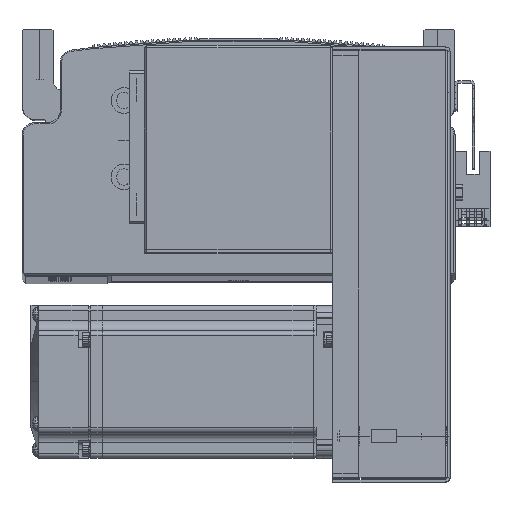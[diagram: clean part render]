
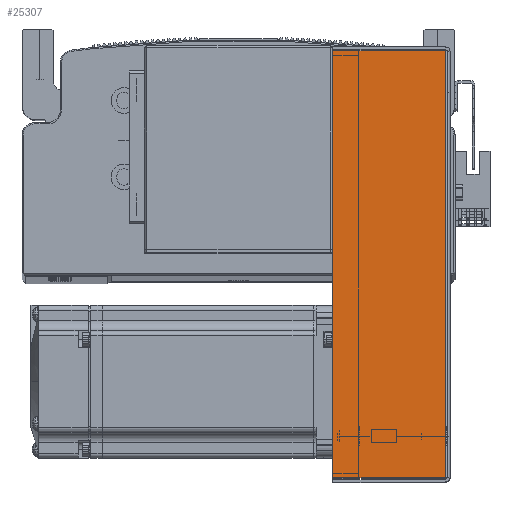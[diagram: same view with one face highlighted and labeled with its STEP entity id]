
A CAD part, top view. The second image highlights one B-rep face of the part: STEP entity #25307.
In plain terms, the highlighted planar face has unit normal (0, 0, 1) as drawn and (0, 0, -1) by its records, which use the part's own axes.
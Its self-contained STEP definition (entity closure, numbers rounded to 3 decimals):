
#15941 = VERTEX_POINT ( 'NONE', #77706 ) ;
#15970 = VERTEX_POINT ( 'NONE', #77813 ) ;
#15991 = VERTEX_POINT ( 'NONE', #77796 ) ;
#16033 = VERTEX_POINT ( 'NONE', #77785 ) ;
#19599 = EDGE_CURVE ( 'NONE', #15970, #16033, #34897, .T. ) ;
#19655 = EDGE_CURVE ( 'NONE', #15991, #15970, #24174, .T. ) ;
#19682 = EDGE_CURVE ( 'NONE', #15941, #16033, #24195, .T. ) ;
#19700 = EDGE_CURVE ( 'NONE', #15991, #15941, #24250, .T. ) ;
#24174 = LINE ( 'NONE', #61935, #24176 ) ;
#24176 = VECTOR ( 'NONE', #61965, 1000. ) ;
#24195 = LINE ( 'NONE', #62365, #24201 ) ;
#24201 = VECTOR ( 'NONE', #62351, 1000. ) ;
#24233 = VECTOR ( 'NONE', #62440, 1000. ) ;
#24250 = LINE ( 'NONE', #62387, #24233 ) ;
#24363 = FACE_OUTER_BOUND ( 'NONE', #28622, .T. ) ;
#25307 = ADVANCED_FACE ( 'NONE', ( #24363 ), #63636, .F. ) ;
#28622 = EDGE_LOOP ( 'NONE', ( #76383, #76321, #76359, #76402 ) ) ;
#33900 = AXIS2_PLACEMENT_3D ( 'NONE', #63650, #63739, #63698 ) ;
#34897 = LINE ( 'NONE', #61514, #34904 ) ;
#34904 = VECTOR ( 'NONE', #61489, 1000. ) ;
#61489 = DIRECTION ( 'NONE',  ( 0., 1., 0. ) ) ;
#61514 = CARTESIAN_POINT ( 'NONE',  ( 83.793, 0., -40.5 ) ) ;
#61935 = CARTESIAN_POINT ( 'NONE',  ( 0., 0.737, -40.5 ) ) ;
#61965 = DIRECTION ( 'NONE',  ( 1., 0., 0. ) ) ;
#62351 = DIRECTION ( 'NONE',  ( 1., 0., 0. ) ) ;
#62365 = CARTESIAN_POINT ( 'NONE',  ( 84.5, 45., -40.5 ) ) ;
#62387 = CARTESIAN_POINT ( 'NONE',  ( -83.793, 0., -40.5 ) ) ;
#62440 = DIRECTION ( 'NONE',  ( 0., 1., 0. ) ) ;
#63636 = PLANE ( 'NONE',  #33900 ) ;
#63650 = CARTESIAN_POINT ( 'NONE',  ( 0., 0., -40.5 ) ) ;
#63698 = DIRECTION ( 'NONE',  ( 0., -1., 0. ) ) ;
#63739 = DIRECTION ( 'NONE',  ( 0., 0., 1. ) ) ;
#76321 = ORIENTED_EDGE ( 'NONE', *, *, #19700, .T. ) ;
#76359 = ORIENTED_EDGE ( 'NONE', *, *, #19682, .T. ) ;
#76383 = ORIENTED_EDGE ( 'NONE', *, *, #19655, .F. ) ;
#76402 = ORIENTED_EDGE ( 'NONE', *, *, #19599, .F. ) ;
#77706 = CARTESIAN_POINT ( 'NONE',  ( -83.793, 45., -40.5 ) ) ;
#77785 = CARTESIAN_POINT ( 'NONE',  ( 83.793, 45., -40.5 ) ) ;
#77796 = CARTESIAN_POINT ( 'NONE',  ( -83.793, 0.737, -40.5 ) ) ;
#77813 = CARTESIAN_POINT ( 'NONE',  ( 83.793, 0.737, -40.5 ) ) ;
